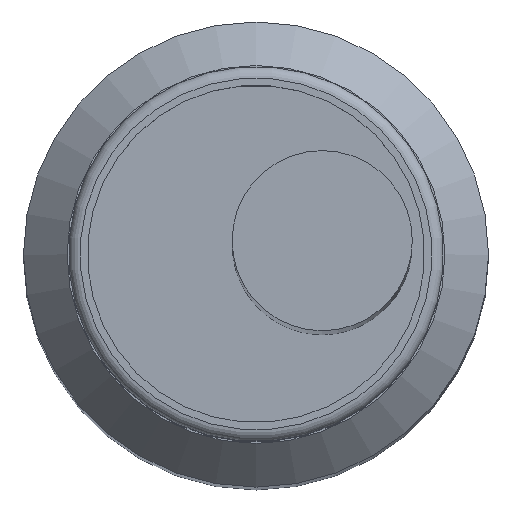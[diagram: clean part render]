
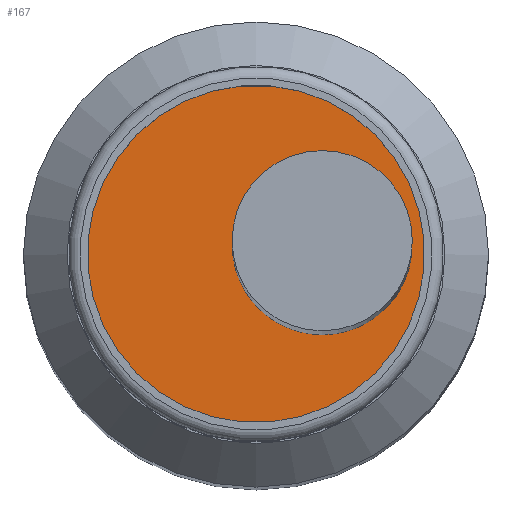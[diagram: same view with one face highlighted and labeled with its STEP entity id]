
A CAD part, top view. The second image highlights one B-rep face of the part: STEP entity #167.
In plain terms, the highlighted planar face has unit normal (0, 0, 1) as drawn and (-1, 0, 0) by its records, which use the part's own axes.
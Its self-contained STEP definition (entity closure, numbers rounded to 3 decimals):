
#167 = ADVANCED_FACE( '', ( #196, #197 ), #198, .F. );
#196 = FACE_BOUND( '', #249, .T. );
#197 = FACE_OUTER_BOUND( '', #250, .T. );
#198 = PLANE( '', #251 );
#249 = EDGE_LOOP( '', ( #311 ) );
#250 = EDGE_LOOP( '', ( #312 ) );
#251 = AXIS2_PLACEMENT_3D( '', #313, #314, #315 );
#311 = ORIENTED_EDGE( '', *, *, #383, .T. );
#312 = ORIENTED_EDGE( '', *, *, #385, .F. );
#313 = CARTESIAN_POINT( '', ( 0.5, 0., 0. ) );
#314 = DIRECTION( '', ( 1., 0., 0. ) );
#315 = DIRECTION( '', ( 0., 0., -1. ) );
#383 = EDGE_CURVE( '', #401, #401, #402, .T. );
#385 = EDGE_CURVE( '', #405, #405, #406, .T. );
#401 = VERTEX_POINT( '', #433 );
#402 = CIRCLE( '', #434, 1.55 );
#405 = VERTEX_POINT( '', #437 );
#406 = CIRCLE( '', #438, 2.9 );
#433 = CARTESIAN_POINT( '', ( 0.5, -0.692, -0.632 ) );
#434 = AXIS2_PLACEMENT_3D( '', #467, #468, #469 );
#437 = CARTESIAN_POINT( '', ( 0.5, 2.9, 0. ) );
#438 = AXIS2_PLACEMENT_3D( '', #473, #474, #475 );
#467 = CARTESIAN_POINT( '', ( 0.5, -0.692, 0.918 ) );
#468 = DIRECTION( '', ( 1., 0., 0. ) );
#469 = DIRECTION( '', ( 0., 0., -1. ) );
#473 = CARTESIAN_POINT( '', ( 0.5, 0., 0. ) );
#474 = DIRECTION( '', ( 1., 0., 0. ) );
#475 = DIRECTION( '', ( 0., 1., 0. ) );
